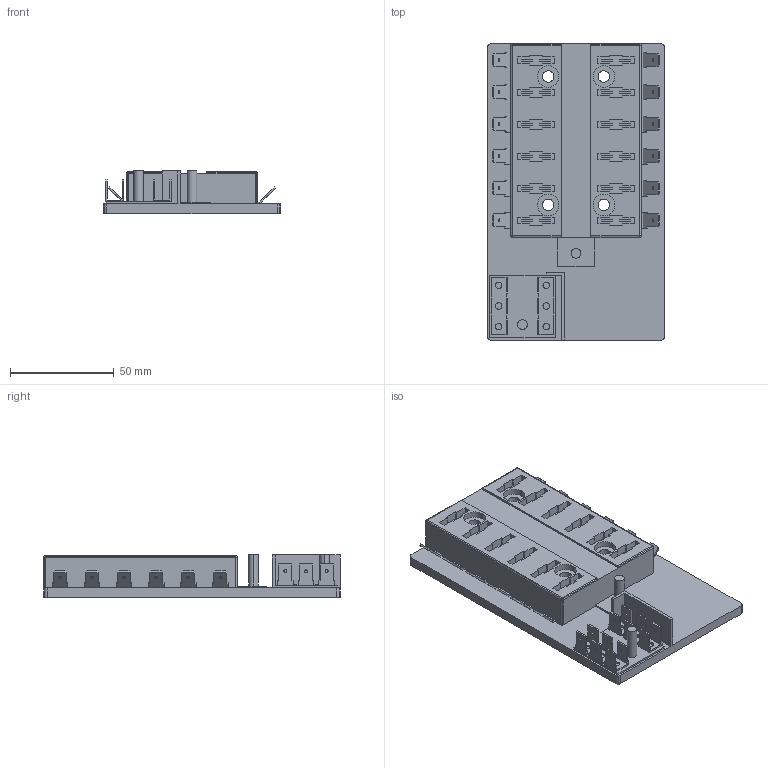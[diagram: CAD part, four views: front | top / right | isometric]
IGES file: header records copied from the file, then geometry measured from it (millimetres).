
Global section: file name: C:\Documents and Settings\Administrator\Desktop\Transfer Temp\fusepanel2.igs; native system: AutoDesk Inventor R2.0 ; preprocessor: AutoDesk Inventor Iges Exporter R2.0; author: No Author specified; organization: No Organization specified; date: 20020117.210706; units: inch
Bounding box: 85.6 x 143 x 20.88 mm (x, y, z)
Surface area: 47866.3 mm2 (no closed solid volume)
Topology: 0 solids, 0 shells, 712 faces, 3752 edges, 3748 vertices
Faces by surface type: bspline 616, revolution 96
